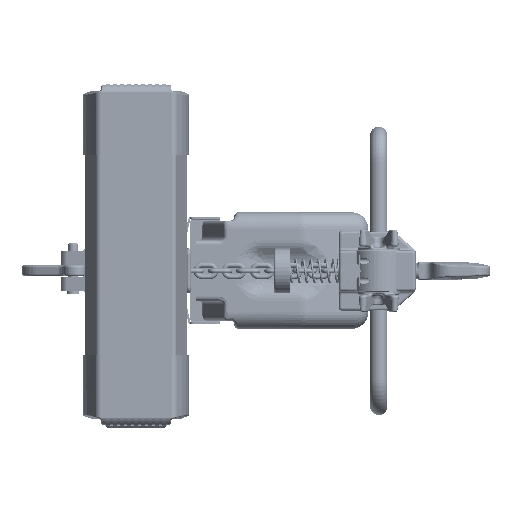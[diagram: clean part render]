
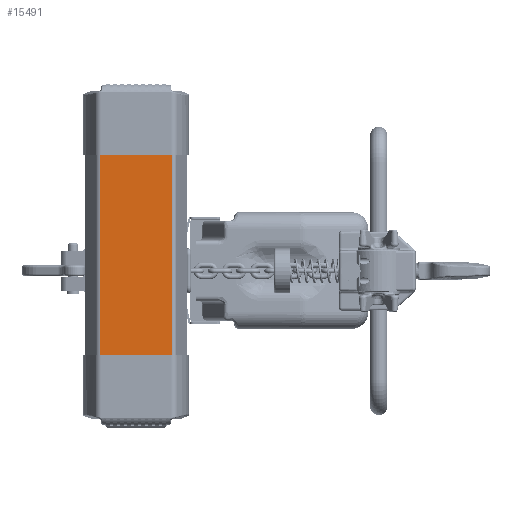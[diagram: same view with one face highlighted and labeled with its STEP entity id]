
A CAD part, left-side view. The second image highlights one B-rep face of the part: STEP entity #15491.
In plain terms, the highlighted planar face has unit normal (-1, 0, 0).
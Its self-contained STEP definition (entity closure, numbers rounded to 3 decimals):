
#11893=FACE_OUTER_BOUND('',#21645,.T.);
#15491=ADVANCED_FACE('',(#11893),#19413,.T.);
#19413=PLANE('',#72431);
#21645=EDGE_LOOP('',(#28621,#28622,#28623,#28624));
#28621=ORIENTED_EDGE('',*,*,#53482,.T.);
#28622=ORIENTED_EDGE('',*,*,#53483,.T.);
#28623=ORIENTED_EDGE('',*,*,#53479,.F.);
#28624=ORIENTED_EDGE('',*,*,#53484,.T.);
#47549=VERTEX_POINT('',#96061);
#47550=VERTEX_POINT('',#96062);
#47551=VERTEX_POINT('',#96067);
#47552=VERTEX_POINT('',#96068);
#53479=EDGE_CURVE('',#47549,#47550,#62943,.T.);
#53482=EDGE_CURVE('',#47551,#47552,#62944,.T.);
#53483=EDGE_CURVE('',#47552,#47550,#62945,.T.);
#53484=EDGE_CURVE('',#47549,#47551,#62946,.T.);
#62943=LINE('',#96060,#67621);
#62944=LINE('',#96066,#67622);
#62945=LINE('',#96069,#67623);
#62946=LINE('',#96070,#67624);
#67621=VECTOR('',#78709,1.);
#67622=VECTOR('',#78716,1.);
#67623=VECTOR('',#78717,1.);
#67624=VECTOR('',#78718,1.);
#72431=AXIS2_PLACEMENT_3D('',#96071,#78719,#78720);
#78709=DIRECTION('',(0.,0.,1.));
#78716=DIRECTION('',(0.,0.,1.));
#78717=DIRECTION('',(0.,1.,0.));
#78718=DIRECTION('',(0.,-1.,0.));
#78719=DIRECTION('',(-1.,0.,0.));
#78720=DIRECTION('',(0.,1.,0.));
#96060=CARTESIAN_POINT('',(295.435,348.936,-3572.6));
#96061=CARTESIAN_POINT('',(295.435,348.936,-72.1));
#96062=CARTESIAN_POINT('',(295.435,348.936,211.4));
#96066=CARTESIAN_POINT('',(295.435,247.299,-3572.6));
#96067=CARTESIAN_POINT('',(295.435,247.299,-72.1));
#96068=CARTESIAN_POINT('',(295.435,247.299,211.4));
#96069=CARTESIAN_POINT('',(295.435,348.936,211.4));
#96070=CARTESIAN_POINT('',(295.435,348.936,-72.1));
#96071=CARTESIAN_POINT('',(295.435,348.936,-3572.6));
